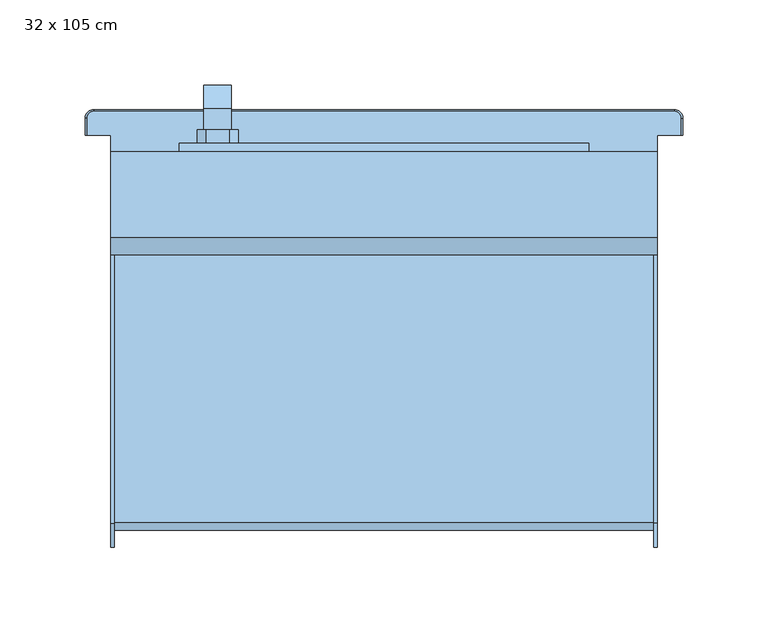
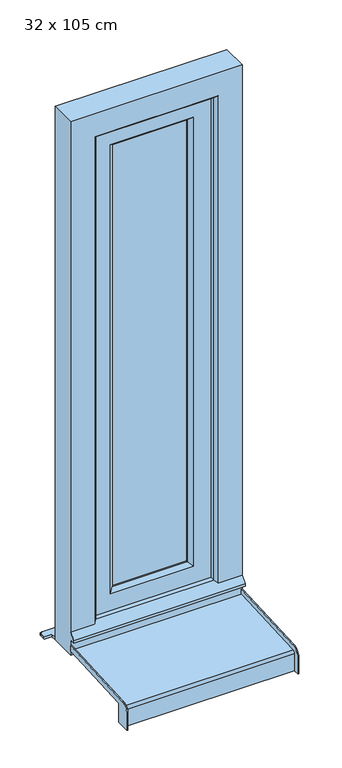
"""IFC4 building model written with IfcOpenShell, lengths in millimetres: window geometry, Fenêtre type 1 : 32 x 105 cm."""

from ifc_helpers import new_model, si_unit, frame, origin, place, context, project, spatial, polyline, circle_curve, outline, extrude, faceted_brep, source, transform, mapped, element, save
from ifc_brep_helpers import plane_surface, cylinder_surface, revolved_surface, advanced_brep


def window_32_x_105_cm_1e8ab629(model_context):
    return source(origin(), model_context, "Body", "SolidModel", [
        faceted_brep([(-105.5, 103.0, 1306.0), (-105.5, 103.0, 1294.0), (-89.5, 103.0, 1294.0), (-89.5, 103.0, 1306.0), (-89.5, 115.4852814, 1306.0), (-105.5, 115.4852814, 1306.0), (-89.5, 110.5147186, 1294.0), (-89.5, 117.0, 1287.5147186), (-89.5, 117.0, 1287.2282668), (-89.5, 119.7580139, 1208.5355339), (-89.5, 129.0, 1208.5355339), (-89.5, 129.0, 1292.4852814), (-105.5, 110.5147186, 1294.0), (-105.5, 129.0, 1292.4852814), (-105.5, 129.0, 1208.5355339), (-105.5, 119.7580139, 1208.5355339), (-105.5, 117.0099909, 1287.2286157), (-105.5, 117.0, 1287.5147186), (-93.0355339, 129.0, 1205.0), (-93.0355339, 119.8814775, 1205.0), (-101.9644661, 119.8814775, 1205.0), (-101.9644661, 129.0, 1205.0)], [[[0, 1, 2, 3]], [[3, 4, 5, 0]], [[2, 6, 7, 8, 9, 10, 11, 4, 3]], [[1, 12, 6, 2]], [[0, 5, 13, 14, 15, 16, 17, 12, 1]], [[4, 11, 13, 5]], [[6, 12, 17, 7]], [[18, 19, 20, 21]], [[11, 10, 18, 21, 14, 13]], [[17, 16, 8, 7]], [[16, 15, 20, 19, 9, 8]], [[9, 19, 18, 10]], [[14, 21, 20, 15]]]),
        extrude(outline(polyline([(1330.0, -104.5), (1325.0, -109.5), (1275.0, -109.5), (1270.0, -104.5), (1270.0, -90.5), (1275.0, -85.5), (1325.0, -85.5), (1330.0, -90.5), (1330.0, -104.5)])), frame((0.0, 95.0, 0.0), z_axis=(0.0, 1.0, 0.0), x_axis=(0.0, 0.0, 1.0)), (0.0, 0.0, 1.0), 8.0),
        advanced_brep(
        [(-160.0, -115.0, 762.0), (-160.0, -141.5, 762.0), (-160.0, -141.5, 795.1063906), (-160.0, -127.2850393, 810.0858337), (-160.0, 40.0, 818.8528711), (-160.0, 40.0, 807.3370891), (-160.0, -115.0, 799.2138833), (160.0, -115.0, 799.2138833), (160.0, 40.0, 807.3370891), (160.0, 40.0, 818.8528711), (160.0, -127.2850393, 810.0858337), (160.0, -141.5, 795.1063906), (160.0, -141.5, 762.0), (160.0, -115.0, 762.0), (-158.0, 40.0, 818.8528711), (-158.0, 40.0, 808.8391476), (158.0, 40.0, 808.8391476), (158.0, 40.0, 818.8528711), (-158.0, -126.7616798, 800.0995383), (158.0, -126.7616798, 800.0995383), (158.0, -131.5, 795.1063906), (-158.0, -131.5, 795.1063906), (-158.0, -131.5, 762.0), (158.0, -131.5, 762.0), (-158.0, -130.0, 762.0), (158.0, -130.0, 762.0), (158.0, -115.0, 762.0), (158.0, -141.5, 762.0), (-158.0, -141.5, 762.0), (-158.0, -115.0, 762.0), (-158.0, -120.0, 772.0), (158.0, -120.0, 772.0), (-158.0, -121.0606602, 773.0606602), (158.0, -121.0606602, 773.0606602), (-158.0, -130.0, 764.1213203), (158.0, -130.0, 764.1213203), (-158.0, -130.0, 795.0728058), (158.0, -130.0, 795.0728058), (-158.0, -115.0, 799.2138833), (158.0, -115.0, 799.2138833), (158.0, -126.649637, 798.6033517), (-158.0, -126.649637, 798.6033517), (158.0, -141.5, 795.1063906), (158.0, -127.2850393, 810.0858337), (-158.0, -127.2850393, 810.0858337), (-158.0, -141.5, 795.1063906)],
        [
            (0, 1),
            (1, 2),
            (2, 3, circle_curve(frame((-160.0, -126.5, 795.1063906), z_axis=(-1.0, 0.0, 0.0), x_axis=(0.0, -0.0523359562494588, 0.9986295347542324)), 15.0)),
            (3, 4),
            (4, 5),
            (5, 6),
            (6, 0),
            (7, 8),
            (8, 9),
            (9, 10),
            (10, 11, circle_curve(frame((160.0, -126.5, 795.1063906), z_axis=(1.0, 0.0, 0.0), x_axis=(0.0, -1.0, 0.0)), 15.0)),
            (11, 12),
            (12, 13),
            (13, 7),
            (14, 15),
            (15, 16),
            (16, 17),
            (17, 9),
            (8, 5),
            (4, 14),
            (18, 19),
            (19, 16),
            (15, 18),
            (20, 21),
            (21, 22),
            (22, 23),
            (23, 20),
            (24, 25),
            (25, 26),
            (26, 13),
            (12, 27),
            (27, 23),
            (22, 28),
            (28, 1),
            (0, 29),
            (29, 24),
            (30, 31),
            (31, 25),
            (24, 30),
            (32, 33),
            (33, 31),
            (30, 32),
            (34, 35),
            (35, 33),
            (32, 34),
            (36, 37),
            (37, 35),
            (34, 36),
            (38, 6),
            (7, 39),
            (39, 40),
            (40, 41),
            (41, 38),
            (41, 36, circle_curve(frame((-158.0, -126.4646089, 795.0728058), z_axis=(1.0, 0.0, 0.0), x_axis=(0.0, 1.0, 0.0)), 3.5353911)),
            (29, 38),
            (37, 40, circle_curve(frame((158.0, -126.4646089, 795.0728058), z_axis=(-1.0, 0.0, 0.0), x_axis=(0.0, 1.0, 0.0)), 3.5353911)),
            (39, 26),
            (18, 21, circle_curve(frame((-158.0, -126.5, 795.1063906), z_axis=(1.0, 0.0, 0.0), x_axis=(0.0, 1.0, 0.0)), 5.0)),
            (20, 19, circle_curve(frame((158.0, -126.5, 795.1063906), z_axis=(-1.0, 0.0, 0.0), x_axis=(0.0, 1.0, 0.0)), 5.0)),
            (27, 42),
            (42, 43, circle_curve(frame((158.0, -126.5, 795.1063906), z_axis=(-1.0, 0.0, 0.0), x_axis=(0.0, -1.0, 0.0)), 15.0)),
            (43, 17),
            (11, 42),
            (10, 43),
            (14, 44),
            (44, 45, circle_curve(frame((-158.0, -126.5, 795.1063906), z_axis=(1.0, 0.0, 0.0), x_axis=(0.0, -0.0523359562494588, 0.9986295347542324)), 15.0)),
            (45, 28),
            (3, 44),
            (2, 45),
        ],
        [
            plane_surface(frame((-160.0, 40.0, 807.3370891), z_axis=(-1.0, 0.0, 0.0), x_axis=(0.0, 0.0, 1.0))),
            plane_surface(frame((160.0, 40.0, 807.3370891), z_axis=(1.0, 0.0, 0.0), x_axis=(0.0, 0.0, -1.0))),
            plane_surface(frame((-160.0, 40.0, 807.3370891), z_axis=(0.0, 1.0, 0.0), x_axis=(1.0, 0.0, 0.0))),
            plane_surface(frame((-160.0, 40.0, 808.8391476), z_axis=(0.0, -0.05233595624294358, 0.9986295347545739), x_axis=(1.0, 0.0, 0.0))),
            plane_surface(frame((-160.0, -131.5, 795.1063906), z_axis=(0.0, -1.0, 0.0), x_axis=(1.0, 0.0, 0.0))),
            plane_surface(frame((-160.0, -131.5, 762.0), z_axis=(0.0, 0.0, -1.0), x_axis=(1.0, 0.0, 0.0))),
            plane_surface(frame((-160.0, -130.0, 762.0), z_axis=(0.0, 0.7071067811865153, -0.7071067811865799), x_axis=(1.0, 0.0, 0.0))),
            plane_surface(frame((-160.0, -120.0, 772.0), z_axis=(0.0, 0.7071067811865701, 0.707106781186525), x_axis=(1.0, 0.0, 0.0))),
            plane_surface(frame((-160.0, -121.0606602, 773.0606602), z_axis=(0.0, -0.7071067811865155, 0.7071067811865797), x_axis=(1.0, 0.0, 0.0))),
            plane_surface(frame((-160.0, -130.0, 764.1213203), z_axis=(0.0, 1.0, 0.0), x_axis=(1.0, 0.0, 0.0))),
            plane_surface(frame((-160.0, -126.649637, 798.6033517), z_axis=(0.0, 0.052335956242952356, -0.9986295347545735), x_axis=(1.0, 0.0, 0.0))),
            plane_surface(frame((-158.0, -130.0, 798.4277666), z_axis=(1.0, 0.0, 0.0), x_axis=(0.0, 0.9986295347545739, 0.05233595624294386))),
            plane_surface(frame((-160.0, -115.0, 762.0), z_axis=(0.0, 1.0, 0.0), x_axis=(1.0, 0.0, 0.0))),
            plane_surface(frame((158.0, -130.0, 798.4277666), z_axis=(-1.0, 0.0, 0.0), x_axis=(0.0, 0.0, -1.0))),
            plane_surface(frame((158.0, -115.0, 762.0), z_axis=(0.0, 1.0, 0.0), x_axis=(1.0, 0.0, 0.0))),
            cylinder_surface(frame((160.0, -126.5, 795.1063906), z_axis=(-1.0, 0.0, 0.0), x_axis=(0.0, 1.0, 0.0)), 5.0),
            revolved_surface(polyline([(158.0, -122.9292178, 795.0728058), (-158.0, -122.9292178, 795.0728058)]), (160.0, -126.4646089, 795.0728058), (1.0, 0.0, 0.0)),
            plane_surface(frame((158.0, -131.5, 762.0), z_axis=(-1.0, 0.0, 0.0), x_axis=(0.0, 0.0, 1.0))),
            plane_surface(frame((158.0, -141.5, 762.0), z_axis=(0.0, -1.0, 0.0), x_axis=(0.0, 0.0, 1.0))),
            cylinder_surface(frame((160.0, -126.5, 795.1063906), z_axis=(1.0, 0.0, 0.0), x_axis=(0.0, -1.0, 0.0)), 15.0),
            plane_surface(frame((158.0, -127.2850393, 810.0858337), z_axis=(0.0, -0.05233595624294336, 0.9986295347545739), x_axis=(0.0, 0.9986295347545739, 0.05233595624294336))),
            plane_surface(frame((-158.0, 40.0, 818.8528711), z_axis=(1.0, 0.0, 0.0), x_axis=(0.0, 0.9986295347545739, 0.05233595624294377))),
            plane_surface(frame((-160.0, 40.0, 818.8528711), z_axis=(0.0, -0.05233595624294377, 0.9986295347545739), x_axis=(1.0, 0.0, 0.0))),
            cylinder_surface(frame((-160.0, -126.5, 795.1063906), z_axis=(-1.0, 0.0, 0.0), x_axis=(0.0, -0.0523359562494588, 0.9986295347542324)), 15.0),
            plane_surface(frame((-158.0, -141.5, 795.1063906), z_axis=(0.0, -1.0, 0.0), x_axis=(0.0, 0.0, -1.0))),
        ],
        [
            (0, [[1, 2, 3, 4, 5, 6, 7]]),
            (1, [[8, 9, 10, 11, 12, 13, 14]]),
            (2, [[15, 16, 17, 18, -9, 19, -5, 20]]),
            (3, [[21, 22, -16, 23]]),
            (4, [[24, 25, 26, 27]]),
            (5, [[28, 29, 30, -13, 31, 32, -26, 33, 34, -1, 35, 36]]),
            (6, [[37, 38, -28, 39]]),
            (7, [[40, 41, -37, 42]]),
            (8, [[43, 44, -40, 45]]),
            (9, [[46, 47, -43, 48]]),
            (10, [[49, -6, -19, -8, 50, 51, 52, 53]]),
            (11, [[-53, 54, -48, -45, -42, -39, -36, 55]]),
            (12, [[-35, -7, -49, -55]]),
            (13, [[-38, -41, -44, -47, 56, -51, 57, -29]]),
            (14, [[-50, -14, -30, -57]]),
            (15, [[-21, 58, -24, 59]]),
            (16, [[-52, -56, -46, -54]]),
            (17, [[60, 61, 62, -17, -22, -59, -27, -32]]),
            (18, [[-12, 63, -60, -31]]),
            (19, [[64, -61, -63, -11]]),
            (20, [[-10, -18, -62, -64]]),
            (21, [[65, 66, 67, -33, -25, -58, -23, -15]]),
            (22, [[68, -65, -20, -4]]),
            (23, [[69, -66, -68, -3]]),
            (24, [[-34, -67, -69, -2]]),
        ],
    ),
        extrude(outline(polyline([(-70.0, 85.0), (70.0, 85.0), (70.0, 65.0), (-70.0, 65.0), (-70.0, 85.0)])), frame((0.0, 0.0, 890.0), z_axis=(0.0, 0.0, 1.0), x_axis=(1.0, 0.0, 0.0)), (0.0, 0.0, 1.0), 870.0),
        faceted_brep([(-120.0, 95.0, 840.0), (120.0, 95.0, 840.0), (120.0, 55.0, 840.0), (-120.0, 55.0, 840.0), (120.0, 95.0, 1810.0), (120.0, 55.0, 1810.0), (-120.0, 55.0, 1810.0), (77.0710678, 55.0, 1767.0710678), (77.0710678, 55.0, 882.9289322), (-77.0710678, 55.0, 882.9289322), (-77.0710678, 55.0, 1767.0710678), (-120.0, 95.0, 1810.0), (77.0710678, 95.0, 882.9289322), (77.0710678, 95.0, 1767.0710678), (-77.0710678, 95.0, 1767.0710678), (-77.0710678, 95.0, 882.9289322), (-70.0, 87.9289322, 890.0), (70.0, 87.9289322, 890.0), (70.0, 87.9289322, 1760.0), (70.0, 62.0710678, 890.0), (70.0, 62.0710678, 1760.0), (-70.0, 62.0710678, 890.0), (-70.0, 87.9289322, 1760.0), (-70.0, 62.0710678, 1760.0)], [[[0, 1, 2, 3]], [[1, 4, 5, 2]], [[2, 5, 6, 3], [7, 8, 9, 10]], [[4, 1, 0, 11], [12, 13, 14, 15]], [[16, 17, 12, 15]], [[17, 18, 13, 12]], [[19, 20, 18, 17]], [[9, 8, 19, 21]], [[8, 7, 20, 19]], [[11, 0, 3, 6]], [[22, 16, 15, 14]], [[23, 21, 16, 22]], [[10, 9, 21, 23]], [[21, 19, 17, 16]], [[4, 11, 6, 5]], [[18, 22, 14, 13]], [[7, 10, 23, 20]], [[20, 23, 22, 18]]]),
        faceted_brep([(160.0, 40.0, 800.0), (160.0, 90.0, 800.0), (160.0, 90.0, 1850.0), (160.0, 40.0, 1850.0), (160.0, 40.0, 845.0), (160.0, 30.0, 835.0), (160.0, 30.0, 830.0), (160.0, 40.0, 830.0), (-160.0, 40.0, 830.0), (-160.0, 40.0, 800.0), (-160.0, 30.0, 830.0), (-160.0, 30.0, 835.0), (115.0, 40.0, 845.0), (110.0, 45.0, 850.0), (-110.0, 45.0, 850.0), (-115.0, 40.0, 845.0), (-160.0, 40.0, 845.0), (-160.0, 40.0, 1850.0), (-115.0, 40.0, 1805.0), (115.0, 40.0, 1805.0), (-160.0, 90.0, 800.0), (-160.0, 90.0, 1850.0), (120.0, 90.0, 840.0), (120.0, 90.0, 1810.0), (-120.0, 90.0, 1810.0), (-120.0, 90.0, 840.0), (-120.0, 55.0, 840.0), (120.0, 55.0, 840.0), (-120.0, 55.0, 1810.0), (120.0, 55.0, 1810.0), (110.0, 55.0, 850.0), (110.0, 55.0, 1800.0), (-110.0, 55.0, 1800.0), (-110.0, 55.0, 850.0), (-110.0, 45.0, 1800.0), (110.0, 45.0, 1800.0)], [[[0, 1, 2, 3, 4, 5, 6, 7]], [[7, 8, 9, 0]], [[6, 10, 8, 7]], [[5, 11, 10, 6]], [[5, 4, 12, 13, 14, 15, 16, 11]], [[17, 16, 15, 18, 19, 12, 4, 3]], [[1, 20, 21, 2], [22, 23, 24, 25]], [[0, 9, 20, 1]], [[9, 8, 10, 11, 16, 17, 21, 20]], [[25, 26, 27, 22]], [[26, 25, 24, 28]], [[22, 27, 29, 23]], [[29, 27, 26, 28], [30, 31, 32, 33]], [[33, 14, 13, 30]], [[34, 14, 33, 32]], [[31, 30, 13, 35]], [[35, 13, 12, 19]], [[18, 15, 14, 34]], [[3, 2, 21, 17]], [[28, 24, 23, 29]], [[18, 34, 35, 19]], [[31, 35, 34, 32]]]),
        advanced_brep(
        [(160.0, 100.0, 805.0), (173.9971508, 100.0, 805.0), (173.9971508, 110.0, 805.0), (170.0, 113.9971508, 805.0), (-170.0, 113.9971508, 805.0), (-173.9971508, 110.0, 805.0), (-173.9971508, 100.0, 805.0), (-160.0, 100.0, 805.0), (-160.0, 90.0, 805.0), (160.0, 90.0, 805.0), (-160.0, 100.0, 800.0), (-173.9971508, 100.0, 800.0), (-173.9971508, 110.0, 800.0), (-170.0, 113.9971508, 800.0), (170.0, 113.9971508, 800.0), (173.9971508, 110.0, 800.0), (173.9971508, 100.0, 800.0), (160.0, 100.0, 800.0), (160.0, 90.0, 800.0), (-160.0, 90.0, 800.0), (-175.0, 110.0, 801.0028492), (-175.0, 100.0, 801.0028492), (-175.0, 100.0, 803.9971508), (-175.0, 110.0, 803.9971508), (175.0, 100.0, 801.0028492), (175.0, 100.0, 803.9971508), (175.0, 110.0, 801.0028492), (175.0, 110.0, 803.9971508), (170.0, 115.0, 801.0028492), (-170.0, 115.0, 801.0028492), (-170.0, 115.0, 803.9971508), (170.0, 115.0, 803.9971508)],
        [
            (0, 1),
            (1, 2),
            (2, 3, circle_curve(frame((170.0, 110.0, 805.0), z_axis=(0.0, 0.0, 1.0), x_axis=(0.0, 1.0, 0.0)), 3.9971508)),
            (3, 4),
            (4, 5, circle_curve(frame((-170.0, 110.0, 805.0), z_axis=(0.0, 0.0, 1.0), x_axis=(-1.0, 0.0, 0.0)), 3.9971508)),
            (5, 6),
            (6, 7),
            (7, 8),
            (8, 9),
            (9, 0),
            (10, 11),
            (11, 12),
            (12, 13, circle_curve(frame((-170.0, 110.0, 800.0), z_axis=(0.0, 0.0, -1.0), x_axis=(-1.0, 0.0, 0.0)), 3.9971508)),
            (13, 14),
            (14, 15, circle_curve(frame((170.0, 110.0, 800.0), z_axis=(0.0, 0.0, -1.0), x_axis=(0.0, 1.0, 0.0)), 3.9971508)),
            (15, 16),
            (16, 17),
            (17, 18),
            (18, 19),
            (19, 10),
            (20, 21),
            (21, 22),
            (22, 23),
            (23, 20),
            (6, 22),
            (21, 11),
            (10, 7),
            (19, 8),
            (18, 9),
            (17, 0),
            (16, 24),
            (24, 25),
            (25, 1),
            (24, 26),
            (26, 27),
            (27, 25),
            (28, 29),
            (29, 30),
            (30, 31),
            (31, 28),
            (31, 27, circle_curve(frame((170.0, 110.0, 803.9971508), z_axis=(0.0, 0.0, -1.0), x_axis=(0.0, 1.0, 0.0)), 5.0)),
            (26, 28, circle_curve(frame((170.0, 110.0, 801.0028492), z_axis=(0.0, 0.0, 1.0), x_axis=(0.0, 1.0, 0.0)), 5.0)),
            (23, 30, circle_curve(frame((-170.0, 110.0, 803.9971508), z_axis=(0.0, 0.0, -1.0), x_axis=(0.0, 1.0, 0.0)), 5.0)),
            (29, 20, circle_curve(frame((-170.0, 110.0, 801.0028492), z_axis=(0.0, 0.0, 1.0), x_axis=(0.0, 1.0, 0.0)), 5.0)),
            (5, 23),
            (20, 12),
            (4, 30),
            (29, 13),
            (3, 31),
            (28, 14),
            (2, 27),
            (26, 15),
        ],
        [
            plane_surface(frame((-175.0, 100.0, 805.0), z_axis=(0.0, 0.0, 1.0), x_axis=(0.0, 1.0, 0.0))),
            plane_surface(frame((-175.0, 100.0, 800.0), z_axis=(0.0, 0.0, -1.0), x_axis=(0.0, -1.0, 0.0))),
            plane_surface(frame((-175.0, 110.0, 800.0), z_axis=(-1.0, 0.0, 0.0), x_axis=(0.0, 0.0, 1.0))),
            plane_surface(frame((-175.0, 100.0, 800.0), z_axis=(0.0, -1.0, 0.0), x_axis=(0.0, 0.0, 1.0))),
            plane_surface(frame((-160.0, 100.0, 800.0), z_axis=(-1.0, 0.0, 0.0), x_axis=(0.0, 0.0, 1.0))),
            plane_surface(frame((-160.0, 90.0, 800.0), z_axis=(0.0, -1.0, 0.0), x_axis=(0.0, 0.0, 1.0))),
            plane_surface(frame((160.0, 90.0, 800.0), z_axis=(1.0, 0.0, 0.0), x_axis=(0.0, 0.0, 1.0))),
            plane_surface(frame((160.0, 100.0, 800.0), z_axis=(0.0, -1.0, 0.0), x_axis=(0.0, 0.0, 1.0))),
            plane_surface(frame((175.0, 100.0, 800.0), z_axis=(1.0, 0.0, 0.0), x_axis=(0.0, 0.0, 1.0))),
            plane_surface(frame((170.0, 115.0, 800.0), z_axis=(0.0, 1.0, 0.0), x_axis=(0.0, 0.0, 1.0))),
            cylinder_surface(frame((170.0, 110.0, 805.0), z_axis=(0.0, 0.0, -1.0), x_axis=(0.0, 1.0, 0.0)), 5.0),
            cylinder_surface(frame((-170.0, 110.0, 805.0), z_axis=(0.0, 0.0, -1.0), x_axis=(0.0, 1.0, 0.0)), 5.0),
            plane_surface(frame((-173.9971508, 100.0, 805.0), z_axis=(-0.7071067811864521, 0.0, 0.707106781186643), x_axis=(0.0, 1.0, 0.0))),
            plane_surface(frame((-175.0, 100.0, 801.0028492), z_axis=(-0.7071067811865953, 0.0, -0.7071067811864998), x_axis=(0.0, 1.0, 0.0))),
            revolved_surface(polyline([(-175.0, 110.0, 803.9971508), (-173.9971508, 110.0, 805.0)]), (-170.0, 110.0, 805.0), (0.0, 0.0, 1.0)),
            revolved_surface(polyline([(-173.9971508, 110.0, 800.0), (-175.0, 110.0, 801.0028492)]), (-170.0, 110.0, 805.0), (0.0, 0.0, 1.0)),
            plane_surface(frame((-170.0, 113.9971508, 805.0), z_axis=(0.0, 0.7071067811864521, 0.707106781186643), x_axis=(1.0, 0.0, 0.0))),
            plane_surface(frame((-170.0, 115.0, 801.0028492), z_axis=(0.0, 0.7071067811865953, -0.7071067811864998), x_axis=(1.0, 0.0, 0.0))),
            revolved_surface(polyline([(170.0, 115.0, 803.9971508), (170.0, 113.9971508, 805.0)]), (170.0, 110.0, 805.0), (0.0, 0.0, 1.0)),
            revolved_surface(polyline([(170.0, 113.9971508, 800.0), (170.0, 115.0, 801.0028492)]), (170.0, 110.0, 805.0), (0.0, 0.0, 1.0)),
            plane_surface(frame((173.9971508, 110.0, 805.0), z_axis=(0.7071067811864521, 0.0, 0.707106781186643), x_axis=(0.0, -1.0, 0.0))),
            plane_surface(frame((175.0, 110.0, 801.0028492), z_axis=(0.7071067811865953, 0.0, -0.7071067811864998), x_axis=(0.0, -1.0, 0.0))),
        ],
        [
            (0, [[1, 2, 3, 4, 5, 6, 7, 8, 9, 10]]),
            (1, [[11, 12, 13, 14, 15, 16, 17, 18, 19, 20]]),
            (2, [[21, 22, 23, 24]]),
            (3, [[-7, 25, -22, 26, -11, 27]]),
            (4, [[-27, -20, 28, -8]]),
            (5, [[-28, -19, 29, -9]]),
            (6, [[-29, -18, 30, -10]]),
            (7, [[-17, 31, 32, 33, -1, -30]]),
            (8, [[34, 35, 36, -32]]),
            (9, [[37, 38, 39, 40]]),
            (10, [[41, -35, 42, -40]]),
            (11, [[43, -38, 44, -24]]),
            (12, [[-23, -25, -6, 45]]),
            (13, [[-12, -26, -21, 46]]),
            (14, [[-5, 47, -43, -45]]),
            (15, [[-44, 48, -13, -46]]),
            (16, [[-4, 49, -39, -47]]),
            (17, [[-37, 50, -14, -48]]),
            (18, [[-3, 51, -41, -49]]),
            (19, [[-42, 52, -15, -50]]),
            (20, [[-2, -33, -36, -51]]),
            (21, [[-34, -31, -16, -52]]),
        ],
    ),
    ])


if __name__ == "__main__":
    model = new_model("IFC4")
    model_context = context("Model", 3, world=origin())
    ifc_project = project(units=[si_unit("LENGTHUNIT", "METRE", prefix="MILLI")], contexts=[model_context])
    site = spatial("IfcSite", under=ifc_project)
    building = spatial("IfcBuilding", under=site)
    placement = place(None, origin())
    window_32_x_105_cm_shape = window_32_x_105_cm_1e8ab629(model_context)
    element("IfcWindow", 1, ObjectType="Fenêtre type 1 : 32 x 105 cm", at=placement, inside=building, context=model_context, shape_type="MappedRepresentation", body=[
        mapped(window_32_x_105_cm_shape, transform((0.0, 0.0, 0.0), x_axis=(1.0, 0.0, 0.0), y_axis=(0.0, 1.0, 0.0), z_axis=(0.0, 0.0, 1.0))),
    ])
    save(model, "model.ifc")
